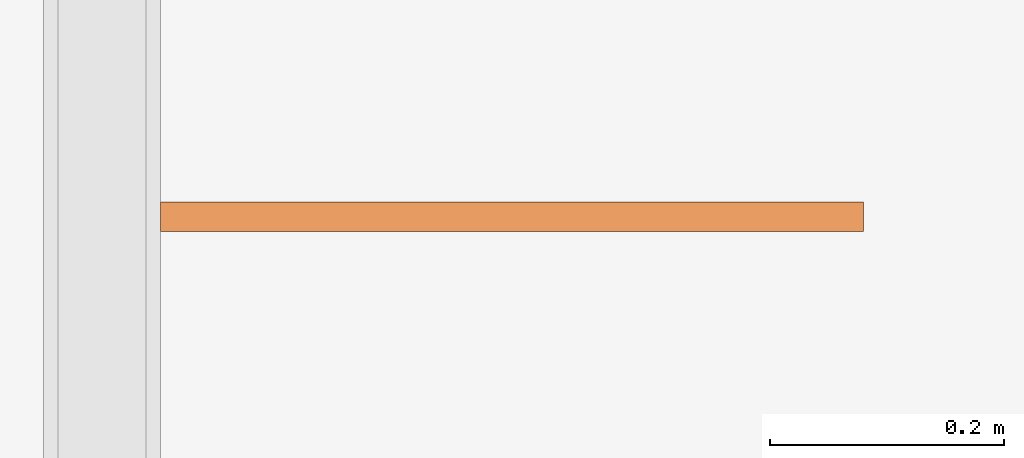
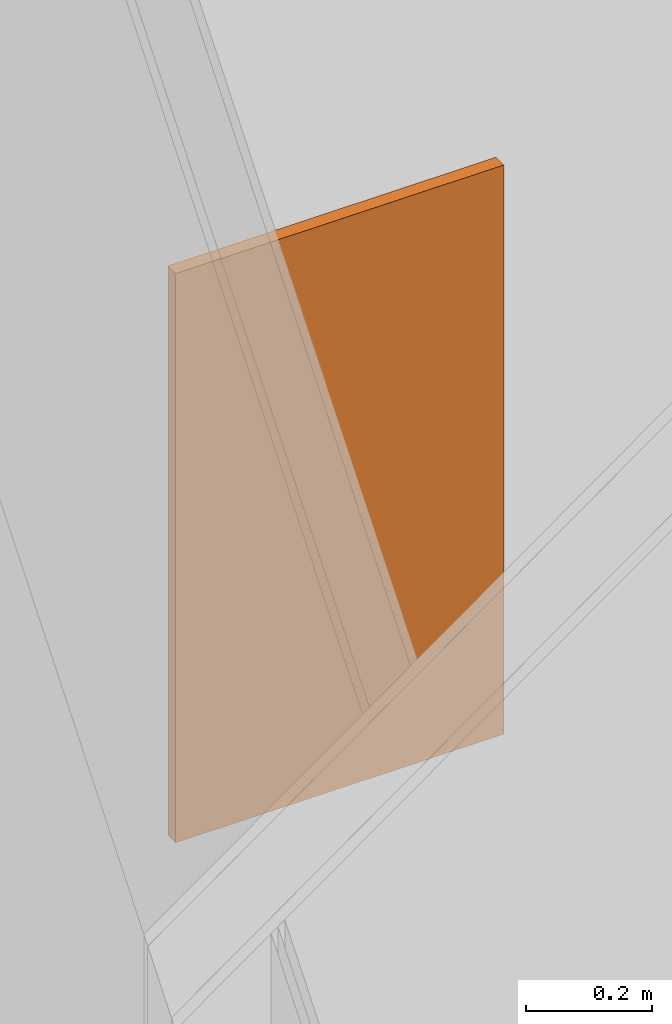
# One storey, part 122 of 135: 1 proxy.
"""IFC2X3 building model written with IfcOpenShell, lengths in millimetres."""

from ifc_helpers import new_model, entity, si_unit, converted_unit, derived_unit, money_unit, direction, frame, origin_with_axes, place, context, subcontext, project, spatial, faceted_brep, source, transform, mapped, type_object, type_shapes, element, save


model = new_model("IFC2X3")

# Units and contexts
model_context = context("Model", 3, precision=0.01, world=origin_with_axes(), true_north=direction((0.0, 1.0)))
body_context = subcontext(model_context, "Body", "Model", "MODEL_VIEW")
ifc_project = project(units=[si_unit("LENGTHUNIT", "METRE", prefix="MILLI"), si_unit("AREAUNIT", "SQUARE_METRE"), si_unit("VOLUMEUNIT", "CUBIC_METRE"), converted_unit("PLANEANGLEUNIT", "DEGREE", entity("IfcPlaneAngleMeasure", 0.0174532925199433), si_unit("PLANEANGLEUNIT", "RADIAN"), dimensions=[0, 0, 0, 0, 0, 0, 0]), money_unit("EUR"), converted_unit("TIMEUNIT", "Year", entity("IfcTimeMeasure", 31557600.0), si_unit("TIMEUNIT", "SECOND"), dimensions=[0, 0, 1, 0, 0, 0, 0]), si_unit("MASSUNIT", "GRAM", prefix="KILO"), si_unit("THERMODYNAMICTEMPERATUREUNIT", "DEGREE_CELSIUS"), si_unit("LUMINOUSINTENSITYUNIT", "LUMEN"), si_unit("ENERGYUNIT", "JOULE", prefix="MEGA"), derived_unit("THERMALCONDUCTANCEUNIT", [(si_unit("POWERUNIT", "WATT"), 1), (si_unit("LENGTHUNIT", "METRE"), -1), (si_unit("THERMODYNAMICTEMPERATUREUNIT", "KELVIN"), -1)]), derived_unit("SPECIFICHEATCAPACITYUNIT", [(si_unit("ENERGYUNIT", "JOULE"), 1), (si_unit("MASSUNIT", "GRAM", prefix="KILO"), -1), (si_unit("THERMODYNAMICTEMPERATUREUNIT", "KELVIN"), -1)]), derived_unit("MASSDENSITYUNIT", [(si_unit("MASSUNIT", "GRAM", prefix="KILO"), 1), (si_unit("VOLUMEUNIT", "CUBIC_METRE"), -1)])], contexts=[model_context])

# Site, building, storey
site_placement = place(None, origin_with_axes())
site = spatial("IfcSite", under=ifc_project, at=site_placement, Name="Site", CompositionType="ELEMENT")
building_placement = place(site_placement, origin_with_axes())
building = spatial("IfcBuilding", under=site, at=building_placement, Name="Naam gebouw", CompositionType="ELEMENT")
storey_placement = place(building_placement, origin_with_axes())
storey = spatial("IfcBuildingStorey", under=building, at=storey_placement, Name="Begane grond N", CompositionType="ELEMENT", Elevation=0.0)

# Proxy
building_element_proxy_type = type_object("IfcBuildingElementProxyType", Name="Scheidingwanden 27", PredefinedType="NOTDEFINED")
shared_shape = source(origin_with_axes(), body_context, "Body", "Brep", [
    faceted_brep([(0.0, 0.0, 400.0), (600.0, 0.0, 400.0), (600.0, 0.0, 1500.0), (0.0, 0.0, 1500.0), (0.0, 25.0, 400.0), (600.0, 25.0, 400.0), (600.0, 25.0, 1500.0), (0.0, 25.0, 1500.0)], [[[0, 1, 2, 3]], [[0, 4, 5, 1]], [[1, 5, 6, 2]], [[3, 2, 6, 7]], [[4, 0, 3, 7]], [[5, 4, 7, 6]]]),
])
type_shapes(building_element_proxy_type, [shared_shape])
proxy_placement = place(storey_placement, frame((21035.99999999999, 32133.41242510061, 0.0), z_axis=(0.0, 0.0, 1.0), x_axis=(1.0, 0.0, 0.0)))
element("IfcBuildingElementProxy", 1, at=proxy_placement, inside=storey, type_object=building_element_proxy_type, Name="_Sanitair-x", context=body_context, shape_type="MappedRepresentation", body=[
    mapped(shared_shape, transform((0.0, 0.0, 0.0))),
])

save(model, "model.ifc")
